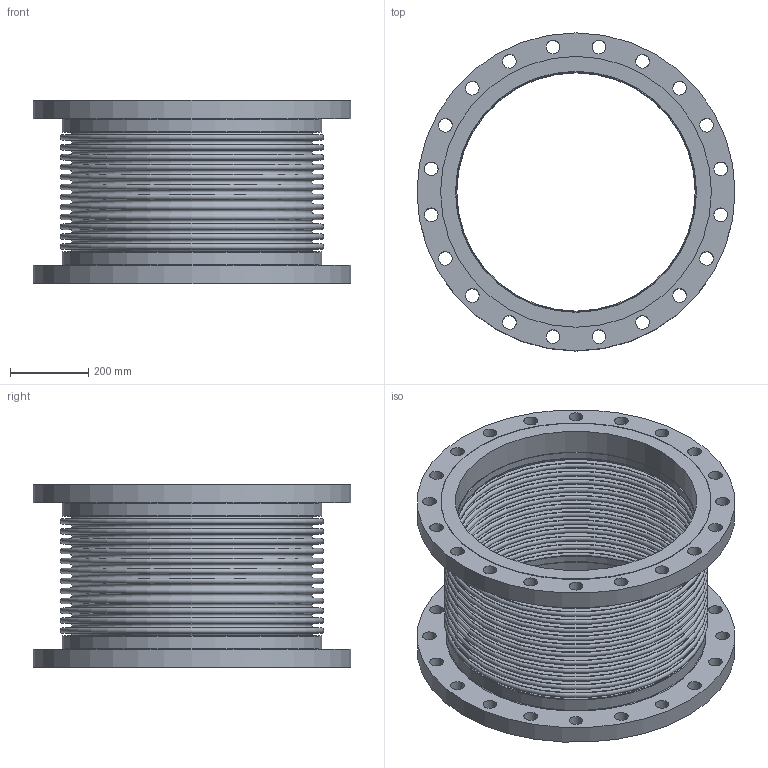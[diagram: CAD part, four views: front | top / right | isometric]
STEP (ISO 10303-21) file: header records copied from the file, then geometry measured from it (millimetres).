
FILE_DESCRIPTION(/* description */ ('EXPANSION JOINT,SINGLE, FLANGED ENDS,24 INCH','CAx-IF Rec.Pracs.---Representation and Presentation of Product Manufacturing Information (PMI)---4.0---2014-10-13'),/* implementation_level */ '2;1');
FILE_NAME(/* name */ 'US-24-12-150L-FLANGED ENDS.stp',/* time_stamp */ '2026-07-31T17:45:24-05:00',/* author */ ('Guadalupe'),/* organization */ (''),/* preprocessor_version */ 'ST-DEVELOPER v20.1',/* originating_system */ 'Autodesk Inventor 2026',/* authorisation */ '');
FILE_SCHEMA (('AP242_MANAGED_MODEL_BASED_3D_ENGINEERING_MIM_LF { 1 0 10303 442 2 1 4 }'));
Length unit declared in the file: inch
Products named in the file (3): 24-150L; 24-150L-02; 24-150L-01
Assembly tree (3 placements, depth 2):
  24-150L
    24-150L-02  x2
    24-150L-01
Bounding box: 812.8 x 812.8 x 469.9 mm (x, y, z)
Volume: 25025251.4 mm3; surface area: 5498508.5 mm2
Topology: 5 solids, 5 shells, 168 faces, 318 edges, 212 vertices
Faces by surface type: plane 62, torus 54, cylinder 52
Full cylindrical faces by diameter (mm): 34.925 x40, 609.6 x2, 612.648 x2, 615.95 x2, 663.702 x2, 692.15 x2, 812.8 x2
Entity records: 3762 total; most frequent: DIRECTION 766, CARTESIAN_POINT 561, ORIENTED_EDGE 480, AXIS2_PLACEMENT_3D 369, EDGE_CURVE 240, EDGE_LOOP 236, CIRCLE 212, VERTEX_POINT 160
